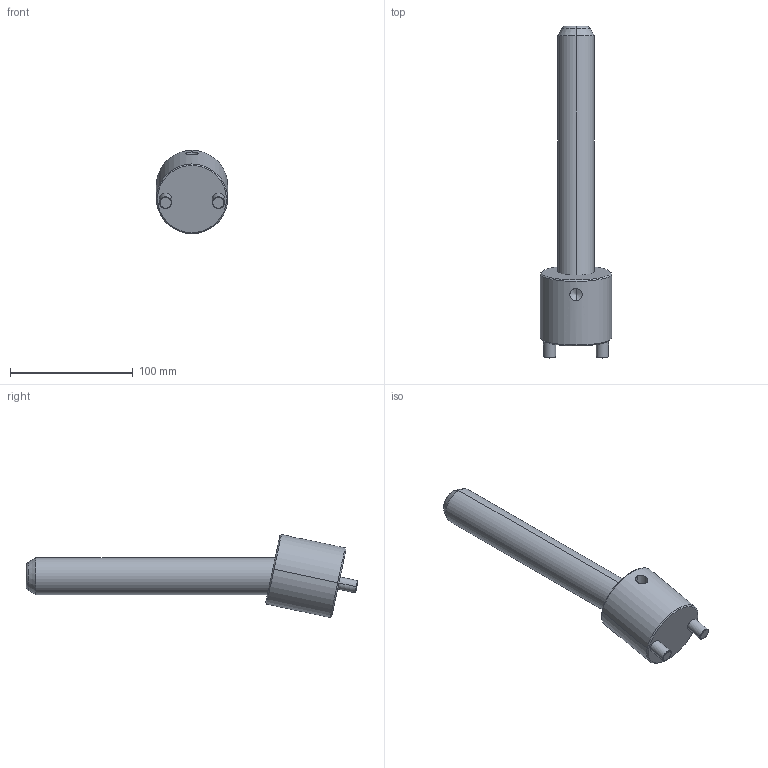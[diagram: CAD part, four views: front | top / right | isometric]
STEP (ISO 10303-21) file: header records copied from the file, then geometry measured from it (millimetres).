
FILE_DESCRIPTION(('CATIA V5 STEP Exchange'),'2;1');
FILE_NAME('C:\Users\Raffaele\Desktop\3D BOLEX\3D FILES CF BOLEX\19-INCLINED ASSEMBLY REF_CI\CI1230200.stp','2019-06-21T14:10:40+00:00',('none'),('none'),'CATIA Version 5 Release 20 GA (IN-10)','CATIA V5 STEP AP203','none');
FILE_SCHEMA(('CONFIG_CONTROL_DESIGN'));
Length unit declared in the file: millimetre
Products named in the file (1): CI1230200
Assembly tree (2 placements, depth 2):
  CI1230200
    #58
    #584
Bounding box: 58 x 270.65 x 67.75 mm (x, y, z)
Volume: 285014.8 mm3; surface area: 44958.1 mm2
Topology: 2 solids, 2 shells, 39 faces, 82 edges, 47 vertices
Faces by surface type: cone 14, cylinder 14, plane 7, torus 4
Entity records: 1533 total; most frequent: CARTESIAN_POINT 670, ORIENTED_EDGE 160, DIRECTION 147, EDGE_CURVE 80, AXIS2_PLACEMENT_3D 74, VERTEX_POINT 47, EDGE_LOOP 43, ADVANCED_FACE 39
